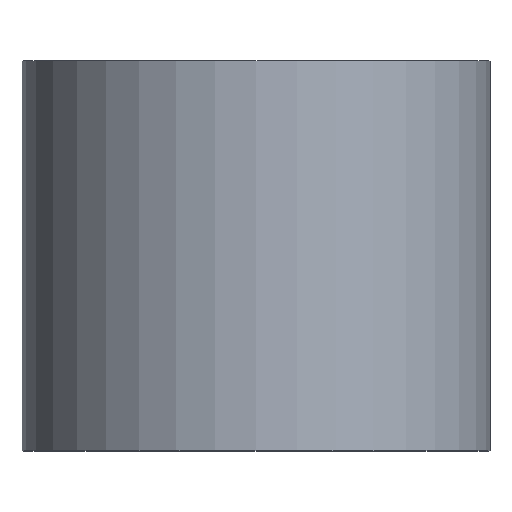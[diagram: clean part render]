
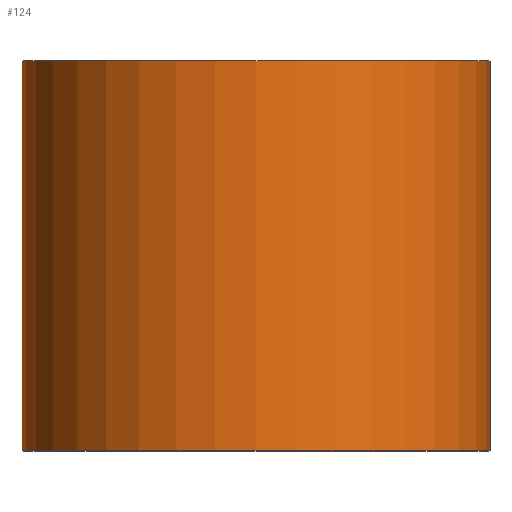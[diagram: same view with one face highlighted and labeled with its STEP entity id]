
A CAD part, top view. The second image highlights one B-rep face of the part: STEP entity #124.
In plain terms, the highlighted cylindrical face has radius 6 mm (diameter 12 mm), a partial arc.
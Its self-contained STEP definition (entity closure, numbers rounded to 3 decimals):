
#2 = VERTEX_POINT ( 'NONE', #59 ) ;
#3 = CARTESIAN_POINT ( 'NONE',  ( 0., 10., 0. ) ) ;
#8 = CARTESIAN_POINT ( 'NONE',  ( 6., 0., 0. ) ) ;
#9 = DIRECTION ( 'NONE',  ( 0., 1., 0. ) ) ;
#22 = ORIENTED_EDGE ( 'NONE', *, *, #285, .T. ) ;
#27 = ORIENTED_EDGE ( 'NONE', *, *, #128, .F. ) ;
#34 = DIRECTION ( 'NONE',  ( -1., 0., 0. ) ) ;
#36 = CIRCLE ( 'NONE', #67, 6. ) ;
#47 = LINE ( 'NONE', #108, #161 ) ;
#51 = AXIS2_PLACEMENT_3D ( 'NONE', #174, #9, #34 ) ;
#59 = CARTESIAN_POINT ( 'NONE',  ( -6., 10., 0. ) ) ;
#66 = VERTEX_POINT ( 'NONE', #8 ) ;
#67 = AXIS2_PLACEMENT_3D ( 'NONE', #3, #83, #261 ) ;
#83 = DIRECTION ( 'NONE',  ( 0., 1., 0. ) ) ;
#108 = CARTESIAN_POINT ( 'NONE',  ( 6., 0., 0. ) ) ;
#115 = EDGE_LOOP ( 'NONE', ( #126, #22, #27, #278 ) ) ;
#123 = AXIS2_PLACEMENT_3D ( 'NONE', #242, #267, #134 ) ;
#124 = ADVANCED_FACE ( 'NONE', ( #127 ), #139, .T. ) ;
#126 = ORIENTED_EDGE ( 'NONE', *, *, #235, .T. ) ;
#127 = FACE_OUTER_BOUND ( 'NONE', #115, .T. ) ;
#128 = EDGE_CURVE ( 'NONE', #2, #163, #36, .T. ) ;
#134 = DIRECTION ( 'NONE',  ( -1., 0., 0. ) ) ;
#139 = CYLINDRICAL_SURFACE ( 'NONE', #51, 6. ) ;
#161 = VECTOR ( 'NONE', #239, 1000. ) ;
#163 = VERTEX_POINT ( 'NONE', #191 ) ;
#169 = EDGE_CURVE ( 'NONE', #279, #2, #217, .T. ) ;
#174 = CARTESIAN_POINT ( 'NONE',  ( 0., 0., 0. ) ) ;
#177 = CARTESIAN_POINT ( 'NONE',  ( -6., 0., 0. ) ) ;
#183 = CIRCLE ( 'NONE', #123, 6. ) ;
#191 = CARTESIAN_POINT ( 'NONE',  ( 6., 10., 0. ) ) ;
#217 = LINE ( 'NONE', #177, #298 ) ;
#235 = EDGE_CURVE ( 'NONE', #279, #66, #183, .T. ) ;
#239 = DIRECTION ( 'NONE',  ( 0., 1., 0. ) ) ;
#240 = DIRECTION ( 'NONE',  ( 0., 1., 0. ) ) ;
#242 = CARTESIAN_POINT ( 'NONE',  ( 0., 0., 0. ) ) ;
#261 = DIRECTION ( 'NONE',  ( -1., 0., 0. ) ) ;
#267 = DIRECTION ( 'NONE',  ( 0., 1., 0. ) ) ;
#278 = ORIENTED_EDGE ( 'NONE', *, *, #169, .F. ) ;
#279 = VERTEX_POINT ( 'NONE', #287 ) ;
#285 = EDGE_CURVE ( 'NONE', #66, #163, #47, .T. ) ;
#287 = CARTESIAN_POINT ( 'NONE',  ( -6., 0., 0. ) ) ;
#298 = VECTOR ( 'NONE', #240, 1000. ) ;
